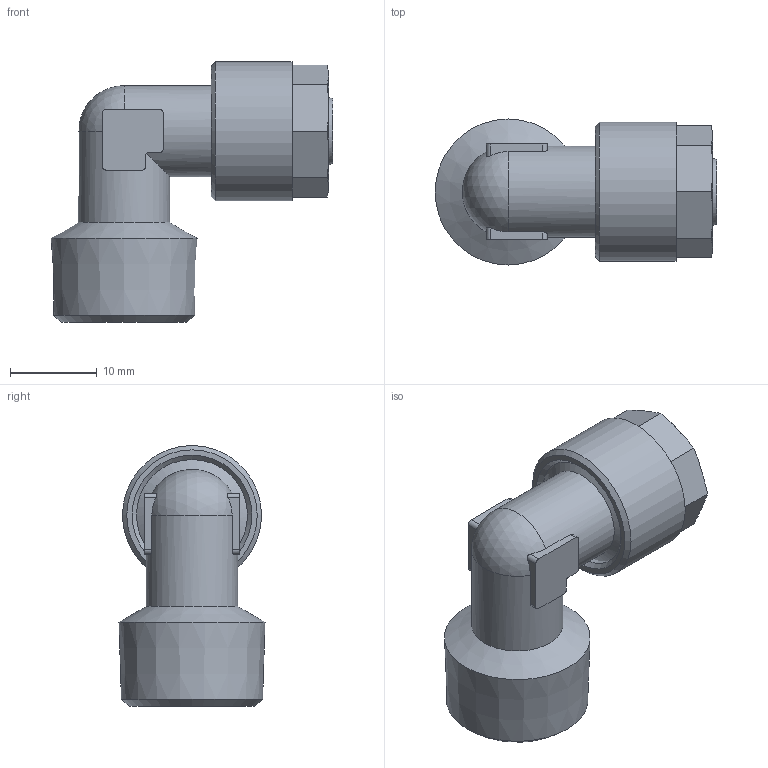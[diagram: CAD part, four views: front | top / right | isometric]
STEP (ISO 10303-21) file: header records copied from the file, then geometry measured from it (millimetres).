
FILE_DESCRIPTION(/* description */ (''),/* implementation_level */ '2;1');
FILE_NAME(/* name */ '11012_305_108_R38_18.07.17',/* time_stamp */ '2017-07-18T15:43:00+02:00',/* author */ (''),/* organization */ (''),/* preprocessor_version */ 'ST-DEVELOPER v16.5',/* originating_system */ 'HiCAD 2016 2102.2 Build 618',/* authorisation */ '');
FILE_SCHEMA (('AUTOMOTIVE_DESIGN { 1 0 10303 214 1 1 1 1 }'));
Length unit declared in the file: millimetre
Products named in the file (3): Root; R11012; 17007
Assembly tree (2 placements, depth 2):
  Root
    R11012
    17007
Bounding box: 32.39 x 16.79 x 30 mm (x, y, z)
Volume: 4337.1 mm3; surface area: 4544.3 mm2
Topology: 2 solids, 2 shells, 77 faces, 198 edges, 127 vertices
Faces by surface type: plane 29, cylinder 25, cone 21, sphere 1, torus 1
Full cylindrical faces by diameter (mm): 6.8 x2, 8.7 x1, 10 x1, 10.5 x2, 10.7 x1, 12.773 x1, 14 x1, 16 x1
Entity records: 5615 total; most frequent: CARTESIAN_POINT 2219, DIRECTION 384, PRESENTATION_STYLE_ASSIGNMENT 326, COLOUR_RGB 325, DRAUGHTING_PRE_DEFINED_CURVE_FONT 324, CURVE_STYLE 324, OVER_RIDING_STYLED_ITEM 324, ORIENTED_EDGE 324
